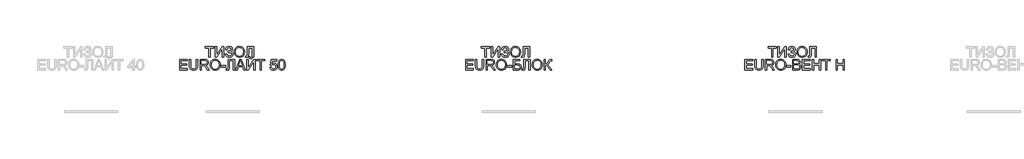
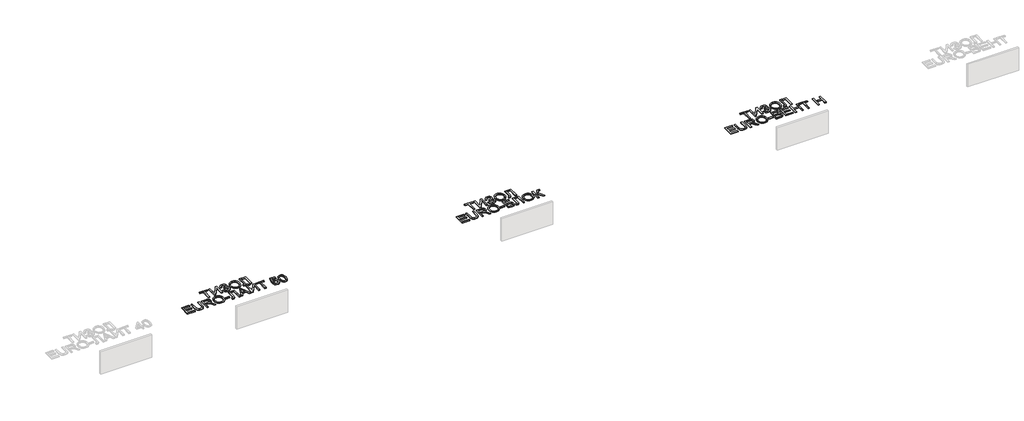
# One storey, part 31 of 35: 3 proxies.
"""IFC4 building model written with IfcOpenShell, lengths in millimetres."""

from ifc_helpers import new_model, si_unit, origin, origin_with_axes, place, context, project, spatial, polyline, outline, extrude, element, save

model = new_model("IFC4")

# Units and contexts
model_context = context("Model", 3, world=origin())
ifc_project = project(units=[si_unit("LENGTHUNIT", "METRE", prefix="MILLI")], contexts=[model_context])

# Site, building, storey
site = spatial("IfcSite", under=ifc_project)
building = spatial("IfcBuilding", under=site)
storey = spatial("IfcBuildingStorey", under=building, Name="Этаж 01", Elevation=0.0)

# Proxies
placement = place(None, origin())
element("IfcBuildingElementProxy", 1, Name="600 мм Arial", ObjectType="600 мм Arial", at=placement, inside=storey, context=model_context, shape_type="SweptSolid", body=[
    extrude(outline(polyline([(17312.8246338, 5315.0742808), (17312.8246338, 5578.7720949), (17213.9379535, 5578.7720949), (17213.9379535, 5616.4432112), (17449.3824304, 5616.4432112), (17449.3824304, 5578.7720949), (17350.4957501, 5578.7720949), (17350.4957501, 5315.0742808), (17312.8246338, 5315.0742808)])), origin_with_axes(), (0.0, 0.0, 1.0), 20.0),
    extrude(outline(polyline([(17491.7624363, 5616.4432112), (17529.4335526, 5616.4432112), (17529.4335526, 5377.7613727), (17687.1813521, 5616.4432112), (17727.2069132, 5616.4432112), (17727.2069132, 5315.0742808), (17689.5357969, 5315.0742808), (17689.5357969, 5553.0939316), (17532.1558793, 5315.0742808), (17491.7624363, 5315.0742808), (17491.7624363, 5616.4432112)])), origin_with_axes(), (0.0, 0.0, 1.0), 20.0),
    extrude(outline(polyline([(17779.0046981, 5399.8342925), (17816.6758144, 5409.2520715), (17824.6312626, 5388.8622119), (17839.8155919, 5368.4539583), (17861.6769795, 5353.1408702), (17889.6636023, 5348.0365075), (17918.018107, 5351.8716773), (17939.6587654, 5363.3771867), (17953.3715668, 5380.3089556), (17957.9425006, 5400.4229036), (17952.9485025, 5421.4933449), (17937.9665082, 5437.7629262), (17914.3760753, 5448.1647896), (17883.5567611, 5451.6320774), (17863.7647098, 5451.6320774), (17863.7647098, 5489.3031937), (17906.402233, 5492.3566142), (17920.2989754, 5497.7828737), (17932.4850665, 5507.9548108), (17940.9831406, 5521.3549125), (17943.8158319, 5536.4656655), (17940.0450415, 5554.2067747), (17928.7326701, 5569.4646804), (17910.9823639, 5579.9769084), (17887.8977687, 5583.4809844), (17867.0296625, 5580.7862488), (17849.4541002, 5572.702042), (17835.9896192, 5560.166463), (17827.4547569, 5544.117611), (17821.384704, 5517.5565309), (17783.7135876, 5526.97431), (17795.4168336, 5568.1770934), (17804.8311638, 5584.3639012), (17816.6206321, 5597.6076531), (17830.7852386, 5607.9083489), (17847.3249831, 5615.2659888), (17866.2398658, 5619.6805728), (17887.5298867, 5621.1521008), (17908.0416072, 5619.6230912), (17926.313846, 5615.0360626), (17942.3466032, 5607.3910149), (17956.1398788, 5596.6879481), (17967.2292217, 5583.9385377), (17975.1501809, 5570.1544592), (17979.9027564, 5555.3357126), (17981.4869483, 5539.4822978), (17979.0221389, 5519.6580568), (17971.6277108, 5502.1974576), (17959.3036639, 5487.1005002), (17942.0499984, 5474.3671847), (17963.000878, 5464.7194794), (17980.2361495, 5448.431504), (17991.76925, 5426.9012102), (17995.6136169, 5401.5265496), (17993.7696084, 5382.8956258), (17988.2375829, 5365.8511932), (17979.0175404, 5350.3932516), (17966.1094809, 5336.5218011), (17950.1571978, 5325.0783718), (17931.8044848, 5316.9044937), (17911.0513418, 5312.0001668), (17887.8977687, 5310.3653912), (17849.6932235, 5315.9571976), (17833.3362703, 5322.9469555), (17818.80953, 5332.7326165), (17806.1130026, 5345.3141808), (17795.2466882, 5360.6916482), (17779.0046981, 5399.8342925)])), origin_with_axes(), (0.0, 0.0, 1.0), 20.0),
    extrude(outline(polyline([(18033.2847332, 5461.7856204), (18035.7955278, 5497.1344817), (18043.3279116, 5528.4274439), (18055.8818847, 5555.6645071), (18073.457447, 5578.8456713), (18095.0015364, 5597.3547342), (18119.4610905, 5610.5754934), (18146.8361095, 5618.5079489), (18177.1265933, 5621.1521008), (18216.6555137, 5616.1856938), (18252.1009439, 5601.286473), (18281.5315035, 5577.502902), (18303.015812, 5545.8834445), (18316.1491993, 5507.9548108), (18320.526995, 5465.2437112), (18315.919273, 5421.9623945), (18302.096107, 5383.5003319), (18279.8208522, 5351.8256921), (18249.8568637, 5328.9066438), (18214.7149361, 5315.0007044), (18176.9058641, 5310.3653912), (18136.7699384, 5315.488148), (18101.1221731, 5330.8564184), (18071.7651899, 5355.0814477), (18050.5016105, 5386.7744816), (18037.5889525, 5423.2407844), (18033.2847332, 5461.7856204)]), holes=[polyline([(18070.9558495, 5461.4177384), (18072.8389454, 5436.4431495), (18078.4882333, 5414.2736608), (18087.9037131, 5394.9092722), (18101.0853849, 5378.3499839), (18117.108945, 5365.087838), (18135.0500901, 5355.6148766), (18154.90882, 5349.9310998), (18176.6851349, 5348.0365075), (18198.8339303, 5349.9494939), (18218.927185, 5355.688453), (18236.9648991, 5365.2533849), (18252.9470725, 5378.6442895), (18266.0321752, 5395.5530657), (18275.3786771, 5415.6716123), (18280.9865783, 5438.9999294), (18282.8558787, 5465.5380168), (18279.6553053, 5498.8865197), (18270.0535853, 5527.710074), (18254.2990388, 5551.2821128), (18232.6399864, 5568.8760692), (18206.5111677, 5579.8297556), (18177.3473225, 5583.4809844), (18156.327465, 5581.7220487), (18136.8251207, 5576.4452413), (18118.8402897, 5567.6505623), (18102.3729719, 5555.3380118), (18088.6279808, 5538.91438), (18078.8101301, 5517.7864572), (18072.9194196, 5491.9542433), (18070.9558495, 5461.4177384)])]), origin_with_axes(), (0.0, 0.0, 1.0), 20.0),
    extrude(outline(polyline([(18395.8692276, 5616.4432112), (18579.5159196, 5616.4432112), (18579.5159196, 5315.0742808), (18541.8448033, 5315.0742808), (18541.8448033, 5578.7720949), (18433.5403439, 5578.7720949), (18433.5403439, 5424.9974209), (18429.1625482, 5356.3874288), (18422.3843224, 5337.0000477), (18410.8052366, 5322.4687089), (18394.9495226, 5313.3912206), (18375.3414123, 5310.3653912), (18344.0714427, 5315.0742808), (18348.7803322, 5352.7453971), (18366.80655, 5348.0365075), (18379.5444641, 5350.5656963), (18388.6219523, 5358.1532624), (18394.0574088, 5375.1218194), (18395.8692276, 5405.7939808), (18395.8692276, 5616.4432112)])), origin_with_axes(), (0.0, 0.0, 1.0), 20.0),
    extrude(outline(polyline([(16484.0600751, 4949.1498272), (16484.0600751, 5250.5187577), (16700.6689938, 5250.5187577), (16700.6689938, 5212.8476414), (16521.7311914, 5212.8476414), (16521.7311914, 5123.3787401), (16691.2512148, 5123.3787401), (16691.2512148, 5085.7076238), (16521.7311914, 5085.7076238), (16521.7311914, 4986.8209435), (16705.3778834, 4986.8209435), (16705.3778834, 4949.1498272), (16484.0600751, 4949.1498272)])), origin_with_axes(), (0.0, 0.0, 1.0), 20.0),
    extrude(outline(polyline([(16959.6579184, 5250.5187577), (16997.3290348, 5250.5187577), (16997.3290348, 5076.6577268), (16994.7722549, 5035.9423869), (16987.1019153, 5004.5896439), (16972.7729116, 4980.4014027), (16950.2401394, 4961.1795685), (16919.4484164, 4948.6255954), (16880.3425603, 4944.4409377), (16842.0920298, 4948.0829694), (16811.511839, 4959.0090647), (16788.5927907, 4976.8421444), (16773.3256879, 5001.2051295), (16764.7448404, 5033.8822478), (16761.8845578, 5076.6577268), (16761.8845578, 5250.5187577), (16799.5556741, 5250.5187577), (16799.5556741, 5077.9821019), (16801.4134782, 5044.1277613), (16806.9868905, 5020.5557225), (16817.0852512, 5004.230959), (16832.5179009, 4992.1184443), (16852.6410461, 4984.6136516), (16876.8108931, 4982.112054), (16915.1258029, 4987.0600668), (16929.4686022, 4993.2450829), (16940.6016311, 5001.9041053), (16948.9387568, 5014.0809994), (16954.8938466, 5030.8196302), (16959.6579184, 5077.9821019), (16959.6579184, 5250.5187577)])), origin_with_axes(), (0.0, 0.0, 1.0), 20.0),
    extrude(outline(polyline([(17063.2534883, 4949.1498272), (17063.2534883, 5250.5187577), (17193.1158326, 5250.5187577), (17228.0186369, 5248.4862097), (17253.4116916, 5242.3885656), (17271.9713383, 5231.1313765), (17286.3739184, 5213.6201936), (17295.6169535, 5191.9059588), (17298.6979652, 5168.0396144), (17293.5936025, 5138.3515373), (17278.2805145, 5113.7402319), (17266.6807353, 5103.710849), (17252.2988486, 5095.69562), (17215.1887523, 5085.7076238), (17236.5994844, 5069.5943925), (17267.13369, 5030.8196302), (17317.3863706, 4949.1498272), (17273.6084131, 4949.1498272), (17234.3921924, 5011.61619), (17206.0652788, 5052.9661263), (17186.1628629, 5072.5006602), (17168.2470097, 5079.6743591), (17146.3948192, 5080.9987343), (17100.9246046, 5080.9987343), (17100.9246046, 4949.1498272), (17063.2534883, 4949.1498272)]), holes=[polyline([(17100.9246046, 5118.6698506), (17185.2431579, 5118.6698506), (17209.4589902, 5120.0034228), (17228.2485631, 5124.0041395), (17242.3936258, 5130.9387151), (17252.6759276, 5141.0738641), (17258.9391186, 5153.3335316), (17261.0268489, 5166.6416628), (17257.0445263, 5185.0173684), (17245.0975585, 5199.8246187), (17224.542152, 5209.5918857), (17194.7345134, 5212.8476414), (17100.9246046, 5212.8476414), (17100.9246046, 5118.6698506)])]), origin_with_axes(), (0.0, 0.0, 1.0), 20.0),
    extrude(outline(polyline([(17350.4957501, 5095.8611669), (17353.0065447, 5131.2100281), (17360.5389286, 5162.5029903), (17373.0929017, 5189.7400536), (17390.668464, 5212.9212178), (17412.2125533, 5231.4302807), (17436.6721075, 5244.6510399), (17464.0471265, 5252.5834954), (17494.3376102, 5255.2276472), (17533.8665306, 5250.2612403), (17569.3119609, 5235.3620195), (17598.7425205, 5211.5784485), (17620.226829, 5179.958991), (17633.3602162, 5142.0303573), (17637.738012, 5099.3192577), (17633.13029, 5056.0379409), (17619.307124, 5017.5758783), (17597.0318692, 4985.9012385), (17567.0678807, 4962.9821902), (17531.9259531, 4949.0762508), (17494.116881, 4944.4409377), (17453.9809554, 4949.5636945), (17418.33319, 4964.9319648), (17388.9762068, 4989.1569942), (17367.7126275, 5020.8500281), (17354.7999695, 5057.3163309), (17350.4957501, 5095.8611669)]), holes=[polyline([(17388.1668664, 5095.4932849), (17390.0499624, 5070.518696), (17395.6992503, 5048.3492072), (17405.1147301, 5028.9848187), (17418.2964018, 5012.4255304), (17434.319962, 4999.1633845), (17452.261107, 4989.6904231), (17472.119837, 4984.0066463), (17493.8961518, 4982.112054), (17516.0449472, 4984.0250404), (17536.1382019, 4989.7639995), (17554.175916, 4999.3289314), (17570.1580894, 5012.719836), (17583.2431922, 5029.6286122), (17592.5896941, 5049.7471588), (17598.1975953, 5073.0754758), (17600.0668957, 5099.6135633), (17596.8663223, 5132.9620661), (17587.2646022, 5161.7856204), (17571.5100558, 5185.3576593), (17549.8510033, 5202.9516157), (17523.7221846, 5213.9053021), (17494.5583394, 5217.5565309), (17473.5384819, 5215.7975951), (17454.0361377, 5210.5207878), (17436.0513066, 5201.7261088), (17419.5839888, 5189.4135583), (17405.8389978, 5172.9899265), (17396.021147, 5151.8620036), (17390.1304366, 5126.0297898), (17388.1668664, 5095.4932849)])]), origin_with_axes(), (0.0, 0.0, 1.0), 20.0),
    extrude(outline(polyline([(17665.9913492, 5038.6187285), (17665.9913492, 5076.2898448), (17783.7135876, 5076.2898448), (17783.7135876, 5038.6187285), (17665.9913492, 5038.6187285)])), origin_with_axes(), (0.0, 0.0, 1.0), 20.0),
    extrude(outline(polyline([(17854.3469307, 5250.5187577), (18037.9936227, 5250.5187577), (18037.9936227, 4949.1498272), (18000.3225064, 4949.1498272), (18000.3225064, 5212.8476414), (17892.018047, 5212.8476414), (17892.018047, 5059.0729674), (17887.6402513, 4990.4629753), (17880.8620255, 4971.0755941), (17869.2829397, 4956.5442553), (17853.4272257, 4947.4667671), (17833.8191154, 4944.4409377), (17802.5491458, 4949.1498272), (17807.2580353, 4986.8209435), (17825.2842531, 4982.112054), (17838.0221672, 4984.6412427), (17847.0996554, 4992.2288089), (17852.5351119, 5009.1973659), (17854.3469307, 5039.8695272), (17854.3469307, 5250.5187577)])), origin_with_axes(), (0.0, 0.0, 1.0), 20.0),
    extrude(outline(polyline([(18068.8221339, 4949.1498272), (18189.1195463, 5250.5187577), (18221.1988563, 5250.5187577), (18341.4962687, 4949.1498272), (18301.6914369, 4949.1498272), (18267.1841057, 5043.327618), (18143.0607205, 5043.327618), (18108.6269658, 4949.1498272), (18068.8221339, 4949.1498272)]), holes=[polyline([(18156.8930836, 5080.9987343), (18253.4253191, 5080.9987343), (18226.2756278, 5155.0901681), (18205.1592013, 5212.8476414), (18186.3972196, 5161.5648912), (18156.8930836, 5080.9987343)])]), origin_with_axes(), (0.0, 0.0, 1.0), 20.0),
    extrude(outline(polyline([(18381.742559, 5250.5187577), (18419.4136753, 5250.5187577), (18419.4136753, 5011.8369192), (18577.1614748, 5250.5187577), (18617.1870359, 5250.5187577), (18617.1870359, 4949.1498272), (18579.5159196, 4949.1498272), (18579.5159196, 5187.1694781), (18422.1360021, 4949.1498272), (18381.742559, 4949.1498272), (18381.742559, 5250.5187577)])), origin_with_axes(), (0.0, 0.0, 1.0), 20.0),
    extrude(outline(polyline([(18532.4270242, 5325.8609903), (18560.6803615, 5325.8609903), (18554.6011115, 5301.7371285), (18542.3966263, 5283.959231), (18524.6187289, 5273.0055446), (18501.8192422, 5269.3543158), (18477.0791781, 5272.9779535), (18457.894132, 5283.8488664), (18444.7791389, 5301.5991727), (18438.2492335, 5325.8609903), (18466.5025707, 5325.8609903), (18470.4756962, 5313.45417), (18477.0975722, 5304.6341992), (18486.4049866, 5299.3642896), (18498.4347279, 5297.6076531), (18512.0095735, 5299.3091073), (18521.8320228, 5304.41347), (18528.4538987, 5313.1782585), (18532.4270242, 5325.8609903)])), origin_with_axes(), (0.0, 0.0, 1.0), 20.0),
    extrude(outline(polyline([(18758.4537221, 4949.1498272), (18758.4537221, 5212.8476414), (18659.5670418, 5212.8476414), (18659.5670418, 5250.5187577), (18895.0115187, 5250.5187577), (18895.0115187, 5212.8476414), (18796.1248384, 5212.8476414), (18796.1248384, 4949.1498272), (18758.4537221, 4949.1498272)])), origin_with_axes(), (0.0, 0.0, 1.0), 20.0),
    extrude(outline(polyline([(19040.9870944, 5029.2009494), (19078.6582107, 5033.9098389), (19085.5743922, 5011.2942933), (19097.6409216, 4995.0982884), (19114.8026167, 4985.3586126), (19137.0042951, 4982.112054), (19164.0068335, 4986.6278055), (19184.2403433, 5000.17506), (19196.8770898, 5021.1903189), (19201.0893387, 5048.1100839), (19197.1438043, 5073.4571534), (19185.3072011, 5092.8445345), (19165.4875586, 5105.1501873), (19137.5929063, 5109.2520715), (19119.3183682, 5107.6149967), (19104.5203149, 5102.703772), (19083.3671002, 5085.7076238), (19045.6959839, 5090.4165134), (19078.6582107, 5245.8098681), (19224.6337864, 5245.8098681), (19224.6337864, 5208.1387518), (19109.1188399, 5208.1387518), (19093.0056085, 5125.1445737), (19119.9161764, 5141.4785343), (19148.1143314, 5146.9231878), (19166.4601466, 5145.2355292), (19183.3114412, 5140.1725532), (19198.6682153, 5131.73426), (19212.5304687, 5119.9206494), (19224.0060877, 5105.4536899), (19232.2029584, 5089.05535), (19237.1210808, 5070.7256296), (19238.760455, 5050.4645287), (19232.8559489, 5012.7934124), (19225.4753164, 4995.9995993), (19215.1424309, 4980.5669496), (19199.489052, 4964.7618194), (19181.2237109, 4953.4724407), (19160.3464077, 4946.6988134), (19136.8571423, 4944.4409377), (19099.8574106, 4950.2442762), (19084.1787399, 4957.4984493), (19070.3808658, 4967.6542916), (19058.9006483, 4980.2059654), (19050.1749472, 4994.647633), (19040.9870944, 5029.2009494)])), origin_with_axes(), (0.0, 0.0, 1.0), 20.0),
    extrude(outline(polyline([(19271.7226817, 5097.4062713), (19274.4909937, 5145.6447979), (19282.7959298, 5184.1160575), (19296.5547164, 5213.4086614), (19315.6845802, 5234.1112207), (19340.3234768, 5246.4168734), (19370.609362, 5250.5187577), (19393.8227159, 5248.0907365), (19414.6080487, 5240.806673), (19431.9904729, 5228.9516757), (19444.9951015, 5212.8108532), (19454.8175507, 5192.5221611), (19462.6534372, 5168.2235554), (19467.7853911, 5137.367453), (19469.4960423, 5097.4062713), (19466.7553215, 5049.4436562), (19458.5331589, 5011.064367), (19444.8571457, 4981.744172), (19425.7548731, 4960.9588393), (19401.0607942, 4948.5704131), (19370.609362, 4944.4409377), (19349.8608175, 4946.2343624), (19331.4667178, 4951.6146366), (19315.4270628, 4960.5817602), (19301.7418525, 4973.1357333), (19288.6084653, 4995.8294539), (19279.2274744, 5024.1057837), (19273.5988799, 5057.9647229), (19271.7226817, 5097.4062713)]), holes=[polyline([(19309.393798, 5097.4798477), (19313.808382, 5038.2232553), (19319.3266119, 5017.9552566), (19327.0521338, 5003.9274563), (19346.7706088, 4987.5659046), (19370.609362, 4982.112054), (19394.4481153, 4987.5842987), (19414.1665903, 5004.0010327), (19421.8921122, 5018.0518257), (19427.4103421, 5038.3152258), (19431.824926, 5097.4798477), (19427.5574949, 5155.4028678), (19422.223206, 5175.6041879), (19414.7552015, 5189.9653813), (19395.0735147, 5207.1270763), (19370.1679036, 5212.8476414), (19346.5866678, 5207.807658), (19327.640745, 5192.687708), (19319.6577057, 5177.0527232), (19313.9555348, 5155.9730849), (19309.393798, 5097.4798477)])]), origin_with_axes(), (0.0, 0.0, 1.0), 20.0),
])
element("IfcBuildingElementProxy", 2, Name="600 мм Arial", ObjectType="600 мм Arial", at=placement, inside=storey, context=model_context, shape_type="SweptSolid", body=[
    extrude(outline(polyline([(25112.8246338, 5315.0742808), (25112.8246338, 5578.7720949), (25013.9379535, 5578.7720949), (25013.9379535, 5616.4432112), (25249.3824304, 5616.4432112), (25249.3824304, 5578.7720949), (25150.4957501, 5578.7720949), (25150.4957501, 5315.0742808), (25112.8246338, 5315.0742808)])), origin_with_axes(), (0.0, 0.0, 1.0), 20.0),
    extrude(outline(polyline([(25291.7624363, 5616.4432112), (25329.4335526, 5616.4432112), (25329.4335526, 5377.7613727), (25487.1813521, 5616.4432112), (25527.2069132, 5616.4432112), (25527.2069132, 5315.0742808), (25489.5357969, 5315.0742808), (25489.5357969, 5553.0939316), (25332.1558793, 5315.0742808), (25291.7624363, 5315.0742808), (25291.7624363, 5616.4432112)])), origin_with_axes(), (0.0, 0.0, 1.0), 20.0),
    extrude(outline(polyline([(25579.0046981, 5399.8342925), (25616.6758144, 5409.2520715), (25624.6312626, 5388.8622119), (25639.8155919, 5368.4539583), (25661.6769795, 5353.1408702), (25689.6636023, 5348.0365075), (25718.018107, 5351.8716773), (25739.6587654, 5363.3771867), (25753.3715668, 5380.3089556), (25757.9425006, 5400.4229036), (25752.9485025, 5421.4933449), (25737.9665082, 5437.7629262), (25714.3760753, 5448.1647896), (25683.5567611, 5451.6320774), (25663.7647098, 5451.6320774), (25663.7647098, 5489.3031937), (25706.402233, 5492.3566142), (25720.2989754, 5497.7828737), (25732.4850665, 5507.9548108), (25740.9831406, 5521.3549125), (25743.8158319, 5536.4656655), (25740.0450415, 5554.2067747), (25728.7326701, 5569.4646804), (25710.9823639, 5579.9769084), (25687.8977687, 5583.4809844), (25667.0296625, 5580.7862488), (25649.4541002, 5572.702042), (25635.9896192, 5560.166463), (25627.4547569, 5544.117611), (25621.384704, 5517.5565309), (25583.7135876, 5526.97431), (25595.4168336, 5568.1770934), (25604.8311638, 5584.3639012), (25616.6206321, 5597.6076531), (25630.7852386, 5607.9083489), (25647.3249831, 5615.2659888), (25666.2398658, 5619.6805728), (25687.5298867, 5621.1521008), (25708.0416072, 5619.6230912), (25726.313846, 5615.0360626), (25742.3466032, 5607.3910149), (25756.1398788, 5596.6879481), (25767.2292217, 5583.9385377), (25775.1501809, 5570.1544592), (25779.9027564, 5555.3357126), (25781.4869483, 5539.4822978), (25779.0221389, 5519.6580568), (25771.6277108, 5502.1974576), (25759.3036639, 5487.1005002), (25742.0499984, 5474.3671847), (25763.000878, 5464.7194794), (25780.2361495, 5448.431504), (25791.76925, 5426.9012102), (25795.6136169, 5401.5265496), (25793.7696084, 5382.8956258), (25788.2375829, 5365.8511932), (25779.0175404, 5350.3932516), (25766.1094809, 5336.5218011), (25750.1571978, 5325.0783718), (25731.8044848, 5316.9044937), (25711.0513418, 5312.0001668), (25687.8977687, 5310.3653912), (25649.6932235, 5315.9571976), (25633.3362703, 5322.9469555), (25618.80953, 5332.7326165), (25606.1130026, 5345.3141808), (25595.2466882, 5360.6916482), (25579.0046981, 5399.8342925)])), origin_with_axes(), (0.0, 0.0, 1.0), 20.0),
    extrude(outline(polyline([(25833.2847332, 5461.7856204), (25835.7955278, 5497.1344817), (25843.3279116, 5528.4274439), (25855.8818847, 5555.6645071), (25873.457447, 5578.8456713), (25895.0015364, 5597.3547342), (25919.4610905, 5610.5754934), (25946.8361095, 5618.5079489), (25977.1265933, 5621.1521008), (26016.6555137, 5616.1856938), (26052.1009439, 5601.286473), (26081.5315035, 5577.502902), (26103.015812, 5545.8834445), (26116.1491993, 5507.9548108), (26120.526995, 5465.2437112), (26115.919273, 5421.9623945), (26102.096107, 5383.5003319), (26079.8208522, 5351.8256921), (26049.8568637, 5328.9066438), (26014.7149361, 5315.0007044), (25976.9058641, 5310.3653912), (25936.7699384, 5315.488148), (25901.1221731, 5330.8564184), (25871.7651899, 5355.0814477), (25850.5016105, 5386.7744816), (25837.5889525, 5423.2407844), (25833.2847332, 5461.7856204)]), holes=[polyline([(25870.9558495, 5461.4177384), (25872.8389454, 5436.4431495), (25878.4882333, 5414.2736608), (25887.9037131, 5394.9092722), (25901.0853849, 5378.3499839), (25917.108945, 5365.087838), (25935.0500901, 5355.6148766), (25954.90882, 5349.9310998), (25976.6851349, 5348.0365075), (25998.8339303, 5349.9494939), (26018.927185, 5355.688453), (26036.9648991, 5365.2533849), (26052.9470725, 5378.6442895), (26066.0321752, 5395.5530657), (26075.3786771, 5415.6716123), (26080.9865783, 5438.9999294), (26082.8558787, 5465.5380168), (26079.6553053, 5498.8865197), (26070.0535853, 5527.710074), (26054.2990388, 5551.2821128), (26032.6399864, 5568.8760692), (26006.5111677, 5579.8297556), (25977.3473225, 5583.4809844), (25956.327465, 5581.7220487), (25936.8251207, 5576.4452413), (25918.8402897, 5567.6505623), (25902.3729719, 5555.3380118), (25888.6279808, 5538.91438), (25878.8101301, 5517.7864572), (25872.9194196, 5491.9542433), (25870.9558495, 5461.4177384)])]), origin_with_axes(), (0.0, 0.0, 1.0), 20.0),
    extrude(outline(polyline([(26195.8692276, 5616.4432112), (26379.5159196, 5616.4432112), (26379.5159196, 5315.0742808), (26341.8448033, 5315.0742808), (26341.8448033, 5578.7720949), (26233.5403439, 5578.7720949), (26233.5403439, 5424.9974209), (26229.1625482, 5356.3874288), (26222.3843224, 5337.0000477), (26210.8052366, 5322.4687089), (26194.9495226, 5313.3912206), (26175.3414123, 5310.3653912), (26144.0714427, 5315.0742808), (26148.7803322, 5352.7453971), (26166.80655, 5348.0365075), (26179.5444641, 5350.5656963), (26188.6219523, 5358.1532624), (26194.0574088, 5375.1218194), (26195.8692276, 5405.7939808), (26195.8692276, 5616.4432112)])), origin_with_axes(), (0.0, 0.0, 1.0), 20.0),
    extrude(outline(polyline([(24568.9478921, 4949.1498272), (24568.9478921, 5250.5187577), (24785.5568109, 5250.5187577), (24785.5568109, 5212.8476414), (24606.6190085, 5212.8476414), (24606.6190085, 5123.3787401), (24776.1390318, 5123.3787401), (24776.1390318, 5085.7076238), (24606.6190085, 5085.7076238), (24606.6190085, 4986.8209435), (24790.2657004, 4986.8209435), (24790.2657004, 4949.1498272), (24568.9478921, 4949.1498272)])), origin_with_axes(), (0.0, 0.0, 1.0), 20.0),
    extrude(outline(polyline([(25044.5457355, 5250.5187577), (25082.2168518, 5250.5187577), (25082.2168518, 5076.6577268), (25079.660072, 5035.9423869), (25071.9897324, 5004.5896439), (25057.6607286, 4980.4014027), (25035.1279564, 4961.1795685), (25004.3362334, 4948.6255954), (24965.2303774, 4944.4409377), (24926.9798469, 4948.0829694), (24896.3996561, 4959.0090647), (24873.4806078, 4976.8421444), (24858.213505, 5001.2051295), (24849.6326574, 5033.8822478), (24846.7723749, 5076.6577268), (24846.7723749, 5250.5187577), (24884.4434912, 5250.5187577), (24884.4434912, 5077.9821019), (24886.3012953, 5044.1277613), (24891.8747075, 5020.5557225), (24901.9730683, 5004.230959), (24917.405718, 4992.1184443), (24937.5288631, 4984.6136516), (24961.6987102, 4982.112054), (25000.01362, 4987.0600668), (25014.3564193, 4993.2450829), (25025.4894482, 5001.9041053), (25033.8265739, 5014.0809994), (25039.7816637, 5030.8196302), (25044.5457355, 5077.9821019), (25044.5457355, 5250.5187577)])), origin_with_axes(), (0.0, 0.0, 1.0), 20.0),
    extrude(outline(polyline([(25148.1413054, 4949.1498272), (25148.1413054, 5250.5187577), (25278.0036497, 5250.5187577), (25312.9064539, 5248.4862097), (25338.2995087, 5242.3885656), (25356.8591553, 5231.1313765), (25371.2617354, 5213.6201936), (25380.5047706, 5191.9059588), (25383.5857823, 5168.0396144), (25378.4814196, 5138.3515373), (25363.1683315, 5113.7402319), (25351.5685524, 5103.710849), (25337.1866656, 5095.69562), (25300.0765694, 5085.7076238), (25321.4873015, 5069.5943925), (25352.0215071, 5030.8196302), (25402.2741876, 4949.1498272), (25358.4962302, 4949.1498272), (25319.2800095, 5011.61619), (25290.9530959, 5052.9661263), (25271.0506799, 5072.5006602), (25253.1348268, 5079.6743591), (25231.2826363, 5080.9987343), (25185.8124217, 5080.9987343), (25185.8124217, 4949.1498272), (25148.1413054, 4949.1498272)]), holes=[polyline([(25185.8124217, 5118.6698506), (25270.130975, 5118.6698506), (25294.3468073, 5120.0034228), (25313.1363802, 5124.0041395), (25327.2814429, 5130.9387151), (25337.5637447, 5141.0738641), (25343.8269356, 5153.3335316), (25345.914666, 5166.6416628), (25341.9323434, 5185.0173684), (25329.9853756, 5199.8246187), (25309.4299691, 5209.5918857), (25279.6223304, 5212.8476414), (25185.8124217, 5212.8476414), (25185.8124217, 5118.6698506)])]), origin_with_axes(), (0.0, 0.0, 1.0), 20.0),
    extrude(outline(polyline([(25435.3835672, 5095.8611669), (25437.8943618, 5131.2100281), (25445.4267457, 5162.5029903), (25457.9807187, 5189.7400536), (25475.5562811, 5212.9212178), (25497.1003704, 5231.4302807), (25521.5599246, 5244.6510399), (25548.9349435, 5252.5834954), (25579.2254273, 5255.2276472), (25618.7543477, 5250.2612403), (25654.1997779, 5235.3620195), (25683.6303375, 5211.5784485), (25705.1146461, 5179.958991), (25718.2480333, 5142.0303573), (25722.625829, 5099.3192577), (25718.018107, 5056.0379409), (25704.1949411, 5017.5758783), (25681.9196863, 4985.9012385), (25651.9556978, 4962.9821902), (25616.8137702, 4949.0762508), (25579.0046981, 4944.4409377), (25538.8687724, 4949.5636945), (25503.2210071, 4964.9319648), (25473.8640239, 4989.1569942), (25452.6004446, 5020.8500281), (25439.6877865, 5057.3163309), (25435.3835672, 5095.8611669)]), holes=[polyline([(25473.0546835, 5095.4932849), (25474.9377795, 5070.518696), (25480.5870673, 5048.3492072), (25490.0025472, 5028.9848187), (25503.1842189, 5012.4255304), (25519.2077791, 4999.1633845), (25537.1489241, 4989.6904231), (25557.0076541, 4984.0066463), (25578.7839689, 4982.112054), (25600.9327643, 4984.0250404), (25621.026019, 4989.7639995), (25639.0637331, 4999.3289314), (25655.0459065, 5012.719836), (25668.1310092, 5029.6286122), (25677.4775112, 5049.7471588), (25683.0854123, 5073.0754758), (25684.9547127, 5099.6135633), (25681.7541394, 5132.9620661), (25672.1524193, 5161.7856204), (25656.3978728, 5185.3576593), (25634.7388204, 5202.9516157), (25608.6100017, 5213.9053021), (25579.4461565, 5217.5565309), (25558.426299, 5215.7975951), (25538.9239547, 5210.5207878), (25520.9391237, 5201.7261088), (25504.4718059, 5189.4135583), (25490.7268148, 5172.9899265), (25480.9089641, 5151.8620036), (25475.0182536, 5126.0297898), (25473.0546835, 5095.4932849)])]), origin_with_axes(), (0.0, 0.0, 1.0), 20.0),
    extrude(outline(polyline([(25750.8791663, 5038.6187285), (25750.8791663, 5076.2898448), (25868.6014047, 5076.2898448), (25868.6014047, 5038.6187285), (25750.8791663, 5038.6187285)])), origin_with_axes(), (0.0, 0.0, 1.0), 20.0),
    extrude(outline(polyline([(25915.6903001, 5250.5187577), (26104.0458816, 5250.5187577), (26104.0458816, 5212.8476414), (25953.3614164, 5212.8476414), (25953.3614164, 5123.3787401), (26023.9211831, 5123.3787401), (26058.9987313, 5121.4657538), (26086.0932403, 5115.7267946), (26106.8969671, 5104.6719407), (26123.102169, 5086.8112698), (26133.5316235, 5063.8186451), (26137.0081084, 5037.3679297), (26134.534102, 5015.1570542), (26127.1120827, 4994.4361008), (26114.7788388, 4976.2903214), (26097.5711585, 4961.8049679), (26071.0284726, 4952.3136124), (26030.6902118, 4949.1498272), (25915.6903001, 4949.1498272), (25915.6903001, 5250.5187577)]), holes=[polyline([(25953.3614164, 4986.8209435), (26034.0747261, 4986.8209435), (26062.6039749, 4989.9295464), (26083.0030315, 4999.255355), (26095.2535019, 5014.7983693), (26099.3369921, 5036.5585893), (26097.0009414, 5052.7637912), (26089.9927894, 5066.0627253), (26078.8183738, 5075.9219628), (26063.9835323, 5081.8080747), (26007.2193405, 5085.7076238), (25953.3614164, 5085.7076238), (25953.3614164, 4986.8209435)])]), origin_with_axes(), (0.0, 0.0, 1.0), 20.0),
    extrude(outline(polyline([(26212.350341, 5250.5187577), (26395.997033, 5250.5187577), (26395.997033, 4949.1498272), (26358.3259167, 4949.1498272), (26358.3259167, 5212.8476414), (26250.0214573, 5212.8476414), (26250.0214573, 5059.0729674), (26245.6436616, 4990.4629753), (26238.8654358, 4971.0755941), (26227.28635, 4956.5442553), (26211.430636, 4947.4667671), (26191.8225257, 4944.4409377), (26160.5525561, 4949.1498272), (26165.2614456, 4986.8209435), (26183.2876634, 4982.112054), (26196.0255775, 4984.6412427), (26205.1030657, 4992.2288089), (26210.5385222, 5009.1973659), (26212.350341, 5039.8695272), (26212.350341, 5250.5187577)])), origin_with_axes(), (0.0, 0.0, 1.0), 20.0),
    extrude(outline(polyline([(26447.7948179, 5095.8611669), (26450.3056125, 5131.2100281), (26457.8379964, 5162.5029903), (26470.3919695, 5189.7400536), (26487.9675318, 5212.9212178), (26509.5116211, 5231.4302807), (26533.9711753, 5244.6510399), (26561.3461943, 5252.5834954), (26591.636678, 5255.2276472), (26631.1655984, 5250.2612403), (26666.6110286, 5235.3620195), (26696.0415883, 5211.5784485), (26717.5258968, 5179.958991), (26730.659284, 5142.0303573), (26735.0370798, 5099.3192577), (26730.4293578, 5056.0379409), (26716.6061918, 5017.5758783), (26694.330937, 4985.9012385), (26664.3669485, 4962.9821902), (26629.2250209, 4949.0762508), (26591.4159488, 4944.4409377), (26551.2800232, 4949.5636945), (26515.6322578, 4964.9319648), (26486.2752746, 4989.1569942), (26465.0116953, 5020.8500281), (26452.0990373, 5057.3163309), (26447.7948179, 5095.8611669)]), holes=[polyline([(26485.4659342, 5095.4932849), (26487.3490302, 5070.518696), (26492.9983181, 5048.3492072), (26502.4137979, 5028.9848187), (26515.5954696, 5012.4255304), (26531.6190298, 4999.1633845), (26549.5601748, 4989.6904231), (26569.4189048, 4984.0066463), (26591.1952196, 4982.112054), (26613.344015, 4984.0250404), (26633.4372697, 4989.7639995), (26651.4749838, 4999.3289314), (26667.4571572, 5012.719836), (26680.54226, 5029.6286122), (26689.8887619, 5049.7471588), (26695.4966631, 5073.0754758), (26697.3659634, 5099.6135633), (26694.1653901, 5132.9620661), (26684.56367, 5161.7856204), (26668.8091236, 5185.3576593), (26647.1500711, 5202.9516157), (26621.0212524, 5213.9053021), (26591.8574072, 5217.5565309), (26570.8375497, 5215.7975951), (26551.3352055, 5210.5207878), (26533.3503744, 5201.7261088), (26516.8830566, 5189.4135583), (26503.1380656, 5172.9899265), (26493.3202148, 5151.8620036), (26487.4295044, 5126.0297898), (26485.4659342, 5095.4932849)])]), origin_with_axes(), (0.0, 0.0, 1.0), 20.0),
    extrude(outline(polyline([(26786.8348647, 5250.5187577), (26824.505981, 5250.5187577), (26824.505981, 5118.6698506), (26850.0094003, 5121.1622511), (26866.6284694, 5128.6394527), (26880.0653593, 5146.2334091), (26896.0222408, 5179.0760742), (26916.8075736, 5221.1985627), (26926.8323579, 5232.6121016), (26940.3520213, 5242.0574718), (26956.4008733, 5248.4034362), (26974.0132238, 5250.5187577), (26998.7348939, 5250.0772993), (26998.7348939, 5212.406183), (26990.4207608, 5212.6269122), (26982.1066277, 5212.8476414), (26964.8529621, 5210.5851671), (26952.6760681, 5203.7977443), (26942.1914312, 5189.542317), (26930.3088428, 5165.022982), (26915.7315187, 5134.4887764), (26903.6373981, 5117.7869338), (26877.6281411, 5102.1887372), (26892.2192607, 5095.9807286), (26906.7092128, 5085.1558008), (26935.3856143, 5049.6551883), (26998.7348939, 4949.1498272), (26955.0305129, 4949.1498272), (26901.4668944, 5034.0569917), (26880.7827292, 5061.2894564), (26863.7589899, 5078.3867721), (26846.3489744, 5087.4090781), (26824.505981, 5090.4165134), (26824.505981, 4949.1498272), (26786.8348647, 4949.1498272), (26786.8348647, 5250.5187577)])), origin_with_axes(), (0.0, 0.0, 1.0), 20.0),
])
element("IfcBuildingElementProxy", 3, Name="600 мм Arial", ObjectType="600 мм Arial", at=placement, inside=storey, context=model_context, shape_type="SweptSolid", body=[
    extrude(outline(polyline([(33212.8246338, 5315.0742808), (33212.8246338, 5578.7720949), (33113.9379535, 5578.7720949), (33113.9379535, 5616.4432112), (33349.3824304, 5616.4432112), (33349.3824304, 5578.7720949), (33250.4957501, 5578.7720949), (33250.4957501, 5315.0742808), (33212.8246338, 5315.0742808)])), origin_with_axes(), (0.0, 0.0, 1.0), 20.0),
    extrude(outline(polyline([(33391.7624363, 5616.4432112), (33429.4335526, 5616.4432112), (33429.4335526, 5377.7613727), (33587.1813521, 5616.4432112), (33627.2069132, 5616.4432112), (33627.2069132, 5315.0742808), (33589.5357969, 5315.0742808), (33589.5357969, 5553.0939316), (33432.1558793, 5315.0742808), (33391.7624363, 5315.0742808), (33391.7624363, 5616.4432112)])), origin_with_axes(), (0.0, 0.0, 1.0), 20.0),
    extrude(outline(polyline([(33679.0046981, 5399.8342925), (33716.6758144, 5409.2520715), (33724.6312626, 5388.8622119), (33739.8155919, 5368.4539583), (33761.6769795, 5353.1408702), (33789.6636023, 5348.0365075), (33818.018107, 5351.8716773), (33839.6587654, 5363.3771867), (33853.3715668, 5380.3089556), (33857.9425006, 5400.4229036), (33852.9485025, 5421.4933449), (33837.9665082, 5437.7629262), (33814.3760753, 5448.1647896), (33783.5567611, 5451.6320774), (33763.7647098, 5451.6320774), (33763.7647098, 5489.3031937), (33806.402233, 5492.3566142), (33820.2989754, 5497.7828737), (33832.4850665, 5507.9548108), (33840.9831406, 5521.3549125), (33843.8158319, 5536.4656655), (33840.0450415, 5554.2067747), (33828.7326701, 5569.4646804), (33810.9823639, 5579.9769084), (33787.8977687, 5583.4809844), (33767.0296625, 5580.7862488), (33749.4541002, 5572.702042), (33735.9896192, 5560.166463), (33727.4547569, 5544.117611), (33721.384704, 5517.5565309), (33683.7135876, 5526.97431), (33695.4168336, 5568.1770934), (33704.8311638, 5584.3639012), (33716.6206321, 5597.6076531), (33730.7852386, 5607.9083489), (33747.3249831, 5615.2659888), (33766.2398658, 5619.6805728), (33787.5298867, 5621.1521008), (33808.0416072, 5619.6230912), (33826.313846, 5615.0360626), (33842.3466032, 5607.3910149), (33856.1398788, 5596.6879481), (33867.2292217, 5583.9385377), (33875.1501809, 5570.1544592), (33879.9027564, 5555.3357126), (33881.4869483, 5539.4822978), (33879.0221389, 5519.6580568), (33871.6277108, 5502.1974576), (33859.3036639, 5487.1005002), (33842.0499984, 5474.3671847), (33863.000878, 5464.7194794), (33880.2361495, 5448.431504), (33891.76925, 5426.9012102), (33895.6136169, 5401.5265496), (33893.7696084, 5382.8956258), (33888.2375829, 5365.8511932), (33879.0175404, 5350.3932516), (33866.1094809, 5336.5218011), (33850.1571978, 5325.0783718), (33831.8044848, 5316.9044937), (33811.0513418, 5312.0001668), (33787.8977687, 5310.3653912), (33749.6932235, 5315.9571976), (33733.3362703, 5322.9469555), (33718.80953, 5332.7326165), (33706.1130026, 5345.3141808), (33695.2466882, 5360.6916482), (33679.0046981, 5399.8342925)])), origin_with_axes(), (0.0, 0.0, 1.0), 20.0),
    extrude(outline(polyline([(33933.2847332, 5461.7856204), (33935.7955278, 5497.1344817), (33943.3279116, 5528.4274439), (33955.8818847, 5555.6645071), (33973.457447, 5578.8456713), (33995.0015364, 5597.3547342), (34019.4610905, 5610.5754934), (34046.8361095, 5618.5079489), (34077.1265933, 5621.1521008), (34116.6555137, 5616.1856938), (34152.1009439, 5601.286473), (34181.5315035, 5577.502902), (34203.015812, 5545.8834445), (34216.1491993, 5507.9548108), (34220.526995, 5465.2437112), (34215.919273, 5421.9623945), (34202.096107, 5383.5003319), (34179.8208522, 5351.8256921), (34149.8568637, 5328.9066438), (34114.7149361, 5315.0007044), (34076.9058641, 5310.3653912), (34036.7699384, 5315.488148), (34001.1221731, 5330.8564184), (33971.7651899, 5355.0814477), (33950.5016105, 5386.7744816), (33937.5889525, 5423.2407844), (33933.2847332, 5461.7856204)]), holes=[polyline([(33970.9558495, 5461.4177384), (33972.8389454, 5436.4431495), (33978.4882333, 5414.2736608), (33987.9037131, 5394.9092722), (34001.0853849, 5378.3499839), (34017.108945, 5365.087838), (34035.0500901, 5355.6148766), (34054.90882, 5349.9310998), (34076.6851349, 5348.0365075), (34098.8339303, 5349.9494939), (34118.927185, 5355.688453), (34136.9648991, 5365.2533849), (34152.9470725, 5378.6442895), (34166.0321752, 5395.5530657), (34175.3786771, 5415.6716123), (34180.9865783, 5438.9999294), (34182.8558787, 5465.5380168), (34179.6553053, 5498.8865197), (34170.0535853, 5527.710074), (34154.2990388, 5551.2821128), (34132.6399864, 5568.8760692), (34106.5111677, 5579.8297556), (34077.3473225, 5583.4809844), (34056.327465, 5581.7220487), (34036.8251207, 5576.4452413), (34018.8402897, 5567.6505623), (34002.3729719, 5555.3380118), (33988.6279808, 5538.91438), (33978.8101301, 5517.7864572), (33972.9194196, 5491.9542433), (33970.9558495, 5461.4177384)])]), origin_with_axes(), (0.0, 0.0, 1.0), 20.0),
    extrude(outline(polyline([(34295.8692276, 5616.4432112), (34479.5159196, 5616.4432112), (34479.5159196, 5315.0742808), (34441.8448033, 5315.0742808), (34441.8448033, 5578.7720949), (34333.5403439, 5578.7720949), (34333.5403439, 5424.9974209), (34329.1625482, 5356.3874288), (34322.3843224, 5337.0000477), (34310.8052366, 5322.4687089), (34294.9495226, 5313.3912206), (34275.3414123, 5310.3653912), (34244.0714427, 5315.0742808), (34248.7803322, 5352.7453971), (34266.80655, 5348.0365075), (34279.5444641, 5350.5656963), (34288.6219523, 5358.1532624), (34294.0574088, 5375.1218194), (34295.8692276, 5405.7939808), (34295.8692276, 5616.4432112)])), origin_with_axes(), (0.0, 0.0, 1.0), 20.0),
    extrude(outline(polyline([(32461.7567525, 4949.1498272), (32461.7567525, 5250.5187577), (32678.3656712, 5250.5187577), (32678.3656712, 5212.8476414), (32499.4278688, 5212.8476414), (32499.4278688, 5123.3787401), (32668.9478921, 5123.3787401), (32668.9478921, 5085.7076238), (32499.4278688, 5085.7076238), (32499.4278688, 4986.8209435), (32683.0745608, 4986.8209435), (32683.0745608, 4949.1498272), (32461.7567525, 4949.1498272)])), origin_with_axes(), (0.0, 0.0, 1.0), 20.0),
    extrude(outline(polyline([(32937.3545958, 5250.5187577), (32975.0257121, 5250.5187577), (32975.0257121, 5076.6577268), (32972.4689323, 5035.9423869), (32964.7985927, 5004.5896439), (32950.469589, 4980.4014027), (32927.9368168, 4961.1795685), (32897.1450938, 4948.6255954), (32858.0392377, 4944.4409377), (32819.7887072, 4948.0829694), (32789.2085164, 4959.0090647), (32766.2894681, 4976.8421444), (32751.0223653, 5001.2051295), (32742.4415177, 5033.8822478), (32739.5812352, 5076.6577268), (32739.5812352, 5250.5187577), (32777.2523515, 5250.5187577), (32777.2523515, 5077.9821019), (32779.1101556, 5044.1277613), (32784.6835678, 5020.5557225), (32794.7819286, 5004.230959), (32810.2145783, 4992.1184443), (32830.3377234, 4984.6136516), (32854.5075705, 4982.112054), (32892.8224803, 4987.0600668), (32907.1652796, 4993.2450829), (32918.2983085, 5001.9041053), (32926.6354342, 5014.0809994), (32932.590524, 5030.8196302), (32937.3545958, 5077.9821019), (32937.3545958, 5250.5187577)])), origin_with_axes(), (0.0, 0.0, 1.0), 20.0),
    extrude(outline(polyline([(33040.9501657, 4949.1498272), (33040.9501657, 5250.5187577), (33170.81251, 5250.5187577), (33205.7153143, 5248.4862097), (33231.108369, 5242.3885656), (33249.6680156, 5231.1313765), (33264.0705957, 5213.6201936), (33273.3136309, 5191.9059588), (33276.3946426, 5168.0396144), (33271.2902799, 5138.3515373), (33255.9771919, 5113.7402319), (33244.3774127, 5103.710849), (33229.9955259, 5095.69562), (33192.8854297, 5085.7076238), (33214.2961618, 5069.5943925), (33244.8303674, 5030.8196302), (33295.0830479, 4949.1498272), (33251.3050905, 4949.1498272), (33212.0888698, 5011.61619), (33183.7619562, 5052.9661263), (33163.8595403, 5072.5006602), (33145.9436871, 5079.6743591), (33124.0914966, 5080.9987343), (33078.621282, 5080.9987343), (33078.621282, 4949.1498272), (33040.9501657, 4949.1498272)]), holes=[polyline([(33078.621282, 5118.6698506), (33162.9398353, 5118.6698506), (33187.1556676, 5120.0034228), (33205.9452405, 5124.0041395), (33220.0903032, 5130.9387151), (33230.372605, 5141.0738641), (33236.635796, 5153.3335316), (33238.7235263, 5166.6416628), (33234.7412037, 5185.0173684), (33222.7942359, 5199.8246187), (33202.2388294, 5209.5918857), (33172.4311907, 5212.8476414), (33078.621282, 5212.8476414), (33078.621282, 5118.6698506)])]), origin_with_axes(), (0.0, 0.0, 1.0), 20.0),
    extrude(outline(polyline([(33328.1924275, 5095.8611669), (33330.7032221, 5131.2100281), (33338.235606, 5162.5029903), (33350.7895791, 5189.7400536), (33368.3651414, 5212.9212178), (33389.9092307, 5231.4302807), (33414.3687849, 5244.6510399), (33441.7438038, 5252.5834954), (33472.0342876, 5255.2276472), (33511.563208, 5250.2612403), (33547.0086382, 5235.3620195), (33576.4391979, 5211.5784485), (33597.9235064, 5179.958991), (33611.0568936, 5142.0303573), (33615.4346893, 5099.3192577), (33610.8269674, 5056.0379409), (33597.0038014, 5017.5758783), (33574.7285466, 4985.9012385), (33544.7645581, 4962.9821902), (33509.6226305, 4949.0762508), (33471.8135584, 4944.4409377), (33431.6776327, 4949.5636945), (33396.0298674, 4964.9319648), (33366.6728842, 4989.1569942), (33345.4093049, 5020.8500281), (33332.4966468, 5057.3163309), (33328.1924275, 5095.8611669)]), holes=[polyline([(33365.8635438, 5095.4932849), (33367.7466398, 5070.518696), (33373.3959277, 5048.3492072), (33382.8114075, 5028.9848187), (33395.9930792, 5012.4255304), (33412.0166394, 4999.1633845), (33429.9577844, 4989.6904231), (33449.8165144, 4984.0066463), (33471.5928292, 4982.112054), (33493.7416246, 4984.0250404), (33513.8348793, 4989.7639995), (33531.8725934, 4999.3289314), (33547.8547668, 5012.719836), (33560.9398695, 5029.6286122), (33570.2863715, 5049.7471588), (33575.8942726, 5073.0754758), (33577.763573, 5099.6135633), (33574.5629997, 5132.9620661), (33564.9612796, 5161.7856204), (33549.2067332, 5185.3576593), (33527.5476807, 5202.9516157), (33501.418862, 5213.9053021), (33472.2550168, 5217.5565309), (33451.2351593, 5215.7975951), (33431.732815, 5210.5207878), (33413.747984, 5201.7261088), (33397.2806662, 5189.4135583), (33383.5356752, 5172.9899265), (33373.7178244, 5151.8620036), (33367.827114, 5126.0297898), (33365.8635438, 5095.4932849)])]), origin_with_axes(), (0.0, 0.0, 1.0), 20.0),
    extrude(outline(polyline([(33643.6880266, 5038.6187285), (33643.6880266, 5076.2898448), (33761.410265, 5076.2898448), (33761.410265, 5038.6187285), (33643.6880266, 5038.6187285)])), origin_with_axes(), (0.0, 0.0, 1.0), 20.0),
    extrude(outline(polyline([(33808.4991604, 4949.1498272), (33808.4991604, 5250.5187577), (33923.4990721, 5250.5187577), (33955.1277266, 5248.3022687), (33979.8218056, 5241.6528016), (33998.7493342, 5230.4048096), (34013.0783379, 5214.3927458), (34022.1006439, 5195.5571876), (34025.1080792, 5175.8387127), (34022.5788905, 5157.6929332), (34014.9913243, 5140.6324057), (34002.2901984, 5125.7055938), (33984.4203305, 5113.9609611), (34005.7666833, 5102.8141366), (34021.5396238, 5085.8547766), (34031.2792996, 5064.2049212), (34034.5258582, 5038.9866105), (34032.3093692, 5017.9713515), (34025.6599022, 4998.4828028), (34015.7362853, 4981.9097189), (34003.697347, 4969.6408544), (33988.9544761, 4960.7565042), (33970.9190613, 4954.3369634), (33922.6161553, 4949.1498272), (33808.4991604, 4949.1498272)]), holes=[polyline([(33846.1702767, 5128.0876297), (33914.9642098, 5128.0876297), (33955.1369237, 5131.3249912), (33969.199213, 5136.9076005), (33979.3067708, 5145.2677189), (33985.4044148, 5156.2765876), (33987.4369629, 5169.8054479), (33985.5423706, 5182.9388352), (33979.8585938, 5194.3799652), (33970.6431498, 5203.3103006), (33958.153556, 5208.911304), (33909.7402855, 5212.8476414), (33846.1702767, 5212.8476414), (33846.1702767, 5128.0876297)]), polyline([(33846.1702767, 4986.8209435), (33923.4254957, 4986.8209435), (33951.3845273, 4988.2924715), (33975.0393396, 4996.49624), (33990.7111126, 5013.2348708), (33995.3188346, 5025.0622769), (33996.8547419, 5038.6187285), (33995.0521202, 5054.3640779), (33989.6442548, 5067.9021353), (33980.1988846, 5078.4879397), (33966.2837481, 5085.37653), (33946.5744702, 5089.1565175), (33919.7466758, 5090.4165134), (33846.1702767, 5090.4165134), (33846.1702767, 4986.8209435)])]), origin_with_axes(), (0.0, 0.0, 1.0), 20.0),
    extrude(outline(polyline([(34086.3236432, 4949.1498272), (34086.3236432, 5250.5187577), (34302.9325619, 5250.5187577), (34302.9325619, 5212.8476414), (34123.9947595, 5212.8476414), (34123.9947595, 5123.3787401), (34293.5147829, 5123.3787401), (34293.5147829, 5085.7076238), (34123.9947595, 5085.7076238), (34123.9947595, 4986.8209435), (34307.6414515, 4986.8209435), (34307.6414515, 4949.1498272), (34086.3236432, 4949.1498272)])), origin_with_axes(), (0.0, 0.0, 1.0), 20.0),
    extrude(outline(polyline([(34364.1481259, 4949.1498272), (34364.1481259, 5250.5187577), (34401.8192422, 5250.5187577), (34401.8192422, 5128.0876297), (34561.9214865, 5128.0876297), (34561.9214865, 5250.5187577), (34599.5926028, 5250.5187577), (34599.5926028, 4949.1498272), (34561.9214865, 4949.1498272), (34561.9214865, 5090.4165134), (34401.8192422, 5090.4165134), (34401.8192422, 4949.1498272), (34364.1481259, 4949.1498272)])), origin_with_axes(), (0.0, 0.0, 1.0), 20.0),
    extrude(outline(polyline([(34740.859289, 4949.1498272), (34740.859289, 5212.8476414), (34641.9726087, 5212.8476414), (34641.9726087, 5250.5187577), (34877.4170856, 5250.5187577), (34877.4170856, 5212.8476414), (34778.5304053, 5212.8476414), (34778.5304053, 4949.1498272), (34740.859289, 4949.1498272)])), origin_with_axes(), (0.0, 0.0, 1.0), 20.0),
    extrude(outline(polyline([(35037.5193299, 4949.1498272), (35037.5193299, 5250.5187577), (35075.1904462, 5250.5187577), (35075.1904462, 5128.0876297), (35235.2926905, 5128.0876297), (35235.2926905, 5250.5187577), (35272.9638068, 5250.5187577), (35272.9638068, 4949.1498272), (35235.2926905, 4949.1498272), (35235.2926905, 5090.4165134), (35075.1904462, 5090.4165134), (35075.1904462, 4949.1498272), (35037.5193299, 4949.1498272)])), origin_with_axes(), (0.0, 0.0, 1.0), 20.0),
])

save(model, "model.ifc")
